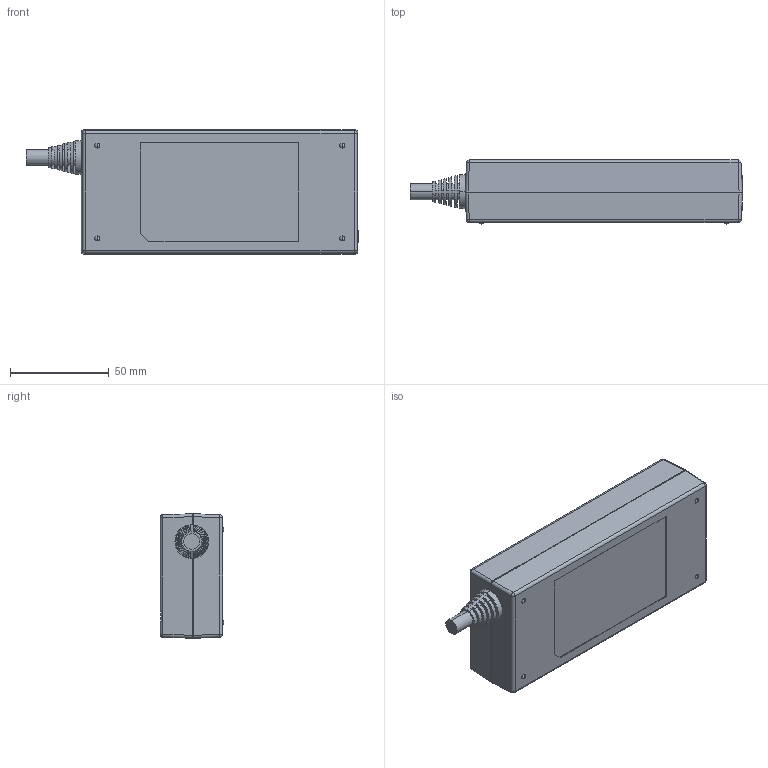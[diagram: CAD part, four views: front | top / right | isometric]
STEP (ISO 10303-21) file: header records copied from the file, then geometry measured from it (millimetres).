
FILE_DESCRIPTION (( 'STEP AP214' ), '1' );
FILE_NAME ('A11.STEP', '2018-03-06T03:11:12', ( 'rd08-1' ), ( '' ), 'SwSTEP 2.0', 'SolidWorks 2016', '' );
FILE_SCHEMA (( 'AUTOMOTIVE_DESIGN' ));
Length unit declared in the file: millimetre
Products named in the file (5): A7-A8; R-201SN90; 2017-08-04 MAP-05-164A; 2017-08-04 MAP-05-163A; A11
Assembly tree (4 placements, depth 2):
  A11
    2017-08-04 MAP-05-163A
    2017-08-04 MAP-05-164A
    R-201SN90
    A7-A8
Bounding box: 168 x 32.3 x 63 mm (x, y, z)
Volume: 65302.1 mm3; surface area: 66760.2 mm2
Topology: 4 solids, 4 shells, 537 faces, 1432 edges, 918 vertices
Faces by surface type: plane 400, cylinder 105, sphere 12, torus 8, bspline 8, cone 4
Entity records: 17828 total; most frequent: CARTESIAN_POINT 3208, ORIENTED_EDGE 2816, DIRECTION 2680, EDGE_CURVE 1408, VECTOR 1060, LINE 1060, VERTEX_POINT 914, AXIS2_PLACEMENT_3D 810
